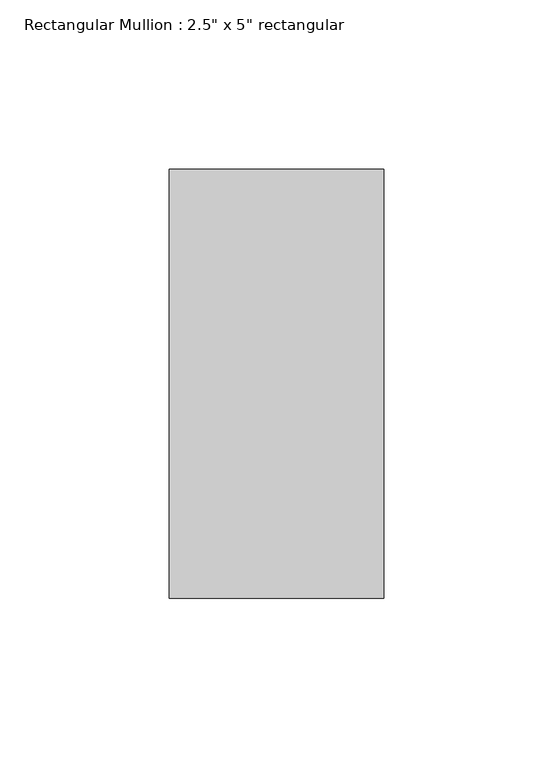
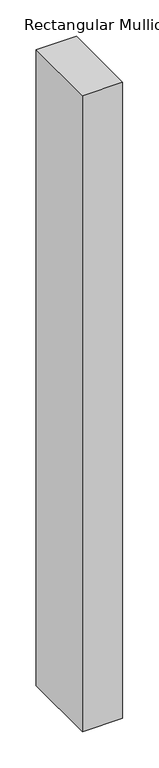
"""IFC4 building model written with IfcOpenShell, lengths in millimetres: member geometry."""

from ifc_helpers import new_model, si_unit, frame, origin, place, context, project, spatial, polyline, outline, extrude, source, transform, mapped, element, save


def member_d263b1c0(model_context):
    return source(origin(), model_context, "Body", "SweptSolid", [
        extrude(outline(polyline([(31.75, 63.5), (31.75, -63.5), (-31.75, -63.5), (-31.75, 63.5), (31.75, 63.5)])), frame((0.0, 0.0, -1063.9540299), z_axis=(0.0, 0.0, 1.0), x_axis=(1.0, 0.0, 0.0)), (0.0, 0.0, 1.0), 1063.9540299),
    ])


if __name__ == "__main__":
    model = new_model("IFC4")
    model_context = context("Model", 3, world=origin())
    ifc_project = project(units=[si_unit("LENGTHUNIT", "METRE", prefix="MILLI")], contexts=[model_context])
    site = spatial("IfcSite", under=ifc_project)
    building = spatial("IfcBuilding", under=site)
    placement = place(None, origin())
    member_shape = member_d263b1c0(model_context)
    element("IfcMember", 1, ObjectType="Rectangular Mullion : 2.5\" x 5\" rectangular", at=placement, inside=building, context=model_context, shape_type="MappedRepresentation", body=[
        mapped(member_shape, transform((0.0, 0.0, 0.0), x_axis=(1.0, 0.0, 0.0), y_axis=(0.0, 1.0, 0.0), z_axis=(0.0, 0.0, 1.0))),
    ])
    save(model, "model.ifc")
